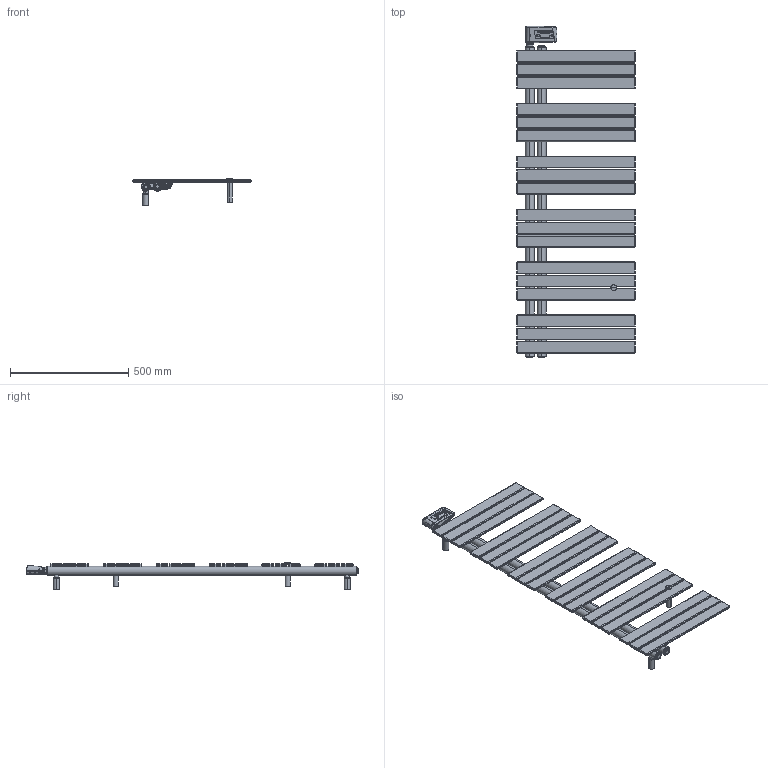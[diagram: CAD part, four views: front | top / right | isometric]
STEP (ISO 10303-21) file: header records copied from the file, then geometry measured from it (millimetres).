
FILE_DESCRIPTION((''),'2;1');
FILE_NAME('3581726100192_3D_SITO_ASM','2023-10-16T15:49:05',('PC132'),(''),'CREO PARAMETRIC BY PTC INC, 2023092','CREO PARAMETRIC BY PTC INC, 2023092','');
FILE_SCHEMA(('AUTOMOTIVE_DESIGN { 1 0 10303 214 1 1 1 1 }'));
Products named in the file (6): 2551720500002_3D_SITO; 1010181240001; 1117000001010; BOTT_GIUNTO_KELLY_RAD50X10; 1035270000042; 3581726100192_3D_SITO_ASM
Assembly tree (7 placements, depth 2):
  3581726100192_3D_SITO_ASM
    2551720500002_3D_SITO
    1010181240001  x3
    1117000001010
    BOTT_GIUNTO_KELLY_RAD50X10
    1035270000042
Bounding box: 500 x 1406.49 x 115.5 mm (x, y, z)
Volume: 7630866.5 mm3; surface area: 1505695.5 mm2
Topology: 29 solids, 33 shells, 1627 faces, 4060 edges, 2508 vertices
Faces by surface type: plane 608, cylinder 542, bspline 321, torus 69, cone 57, extrusion 18, sphere 12
Entity records: 119592 total; most frequent: CARTESIAN_POINT 67825, ORIENTED_EDGE 7689, DIRECTION 6812, PRESENTATION_STYLE_ASSIGNMENT 3922, EDGE_CURVE 3865, STYLED_ITEM 3794, CURVE_STYLE 3767, AXIS2_PLACEMENT_3D 2463
